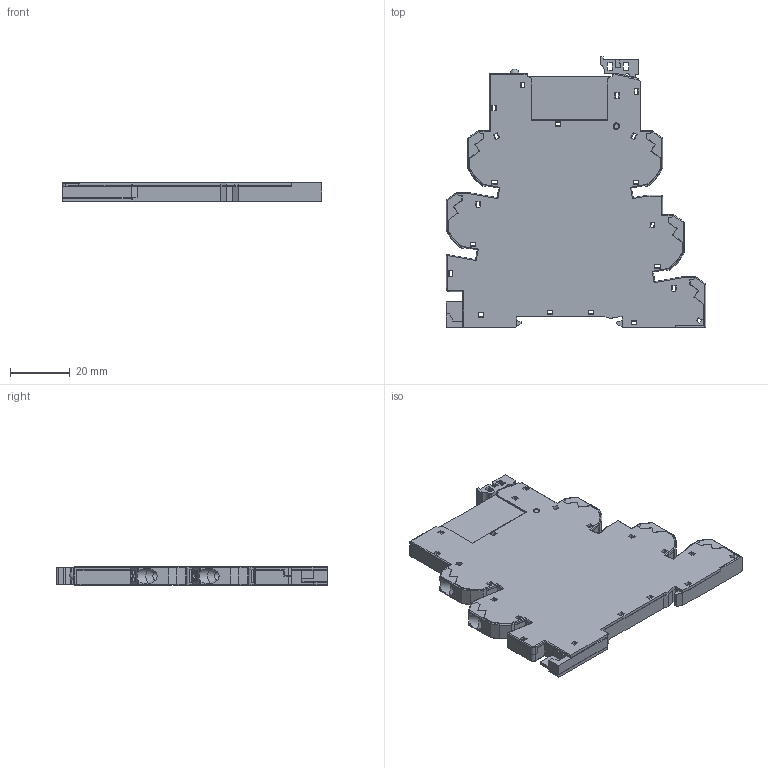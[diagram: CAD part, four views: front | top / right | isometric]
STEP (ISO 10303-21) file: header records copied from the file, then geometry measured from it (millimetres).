
FILE_DESCRIPTION( ( 'Unknown' ), '1' );
FILE_NAME( 'C:/Users/pdellaca/Desktop/Mezzacappa 93.6x push-in/3901.stp', 'Unknown', ( 'Unknown' ), ( 'Unknown' ), 'PSStep 15.0.49', 'Unknown', ' ' );
FILE_SCHEMA( ( 'AUTOMOTIVE_DESIGN { 1 0 10303 214 1 1 1 1 }' ) );
Length unit declared in the file: millimetre
Products named in the file (4): top; Master BASIC 93
Bounding box: 87 x 90.7 x 6.15 mm (x, y, z)
Surface area: 26298.7 mm2 (no closed solid volume)
Topology: 0 solids, 862 shells, 862 faces, 5932 edges, 5901 vertices
Faces by surface type: plane 631, cylinder 196, sphere 19, cone 12, revolution 2, torus 2
Full cylindrical faces by diameter (mm): 2 x2, 2.2 x2, 2.8 x5
Entity records: 62193 total; most frequent: CARTESIAN_POINT 12946, DIRECTION 8327, VERTEX_POINT 5891, ORIENTED_EDGE 5890, EDGE_CURVE 5890, LINE 5057, VECTOR 5057, AXIS2_PLACEMENT_3D 1634
